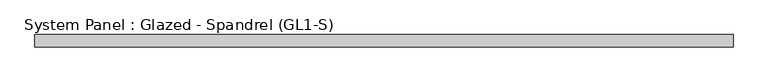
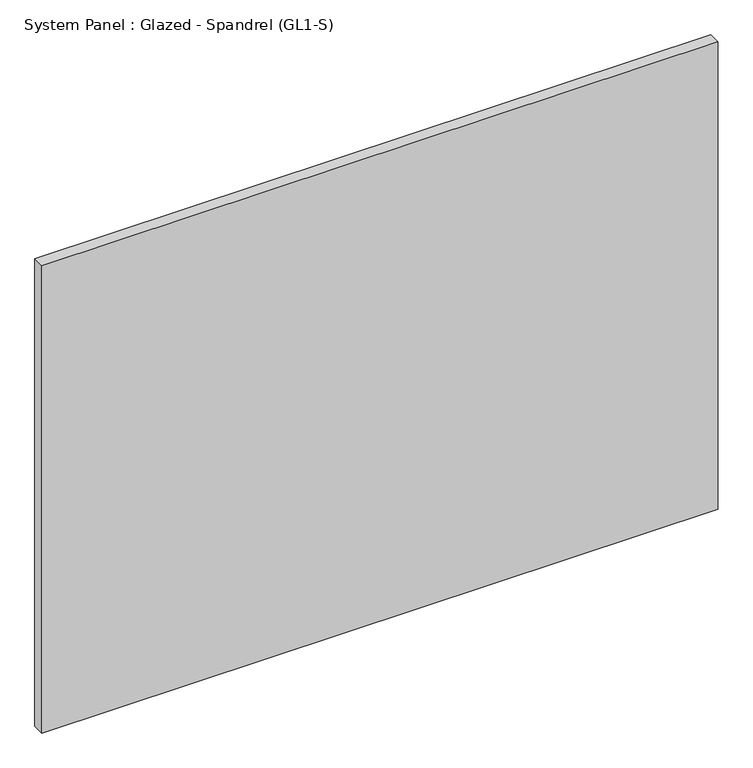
"""IFC4 building model written with IfcOpenShell, lengths in millimetres: plate geometry, System Panel : Glazed - Spandrel (GL1-S)."""

from ifc_helpers import new_model, si_unit, origin, origin_with_axes, place, context, project, spatial, polyline, outline, extrude, source, transform, mapped, element, save


def system_panel_glazed_spandrel_gl1_s_556c1aa7(model_context):
    return source(origin(), model_context, "Body", "SweptSolid", [
        extrude(outline(polyline([(730.25, -25.4), (-730.25, -25.4), (-730.25, 0.0), (730.25, 0.0), (730.25, -25.4)])), origin_with_axes(), (0.0, 0.0, 1.0), 1066.8),
    ])


if __name__ == "__main__":
    model = new_model("IFC4")
    model_context = context("Model", 3, world=origin())
    ifc_project = project(units=[si_unit("LENGTHUNIT", "METRE", prefix="MILLI")], contexts=[model_context])
    site = spatial("IfcSite", under=ifc_project)
    building = spatial("IfcBuilding", under=site)
    placement = place(None, origin())
    system_panel_glazed_spandrel_gl1_s_shape = system_panel_glazed_spandrel_gl1_s_556c1aa7(model_context)
    element("IfcPlate", 1, ObjectType="System Panel : Glazed - Spandrel (GL1-S)", at=placement, inside=building, context=model_context, shape_type="MappedRepresentation", body=[
        mapped(system_panel_glazed_spandrel_gl1_s_shape, transform((0.0, 0.0, 0.0), x_axis=(1.0, 0.0, 0.0), y_axis=(0.0, 1.0, 0.0), z_axis=(0.0, 0.0, 1.0))),
    ])
    save(model, "model.ifc")
